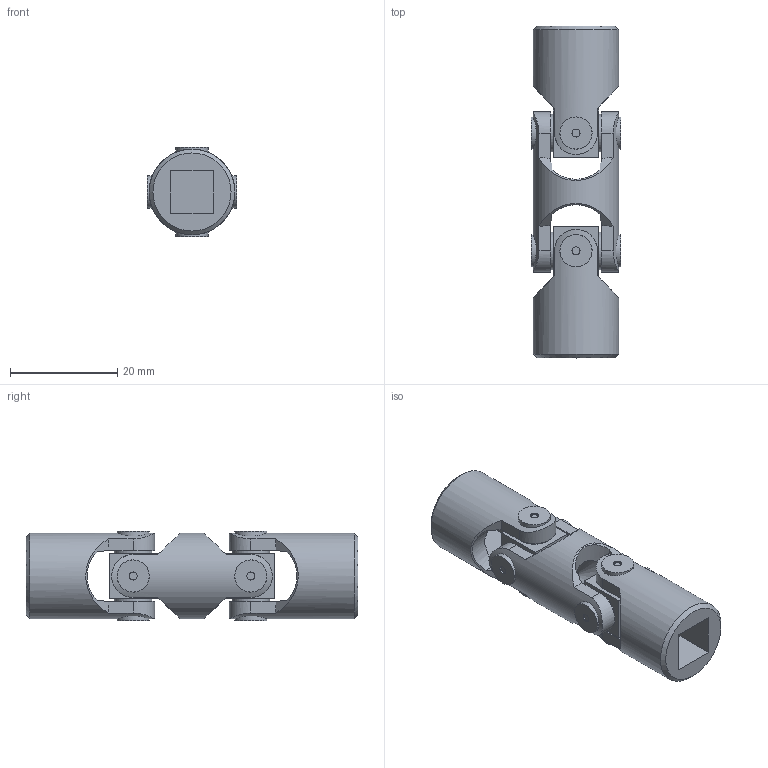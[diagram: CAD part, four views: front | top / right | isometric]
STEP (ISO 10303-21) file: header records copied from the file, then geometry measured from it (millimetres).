
FILE_DESCRIPTION(/* description */ (''),/* implementation_level */ '2;1');
FILE_NAME(/* name */ '\\SRV2016\Societa\Stefano\Disegni 3D\00Catalogo 3D\02Doppi GD-GBD\SG0D082Q.stp',/* time_stamp */ '2021-11-22T16:54:35+01:00',/* author */ ('acquisti'),/* organization */ (''),/* preprocessor_version */ 'ST-DEVELOPER v15.6',/* originating_system */ 'Autodesk Inventor 2015',/* authorisation */ '');
FILE_SCHEMA (('AUTOMOTIVE_DESIGN { 1 0 10303 214 3 1 1 }'));
Length unit declared in the file: millimetre
Products named in the file (4): 01G MOD; 01-02G SFE; 02G MOQ; Ø16_02GD-00_SG0D0800
Assembly tree (5 placements, depth 2):
  Ø16_02GD-00_SG0D0800
    01G MOD
    01-02G SFE  x2
    02G MOQ  x2
Bounding box: 16.7 x 62 x 16.7 mm (x, y, z)
Volume: 8053.6 mm3; surface area: 6167.8 mm2
Topology: 5 solids, 5 shells, 155 faces, 397 edges, 272 vertices
Faces by surface type: plane 78, cylinder 45, cone 28, torus 4
Full cylindrical faces by diameter (mm): 1.5 x8, 6 x8, 7 x8, 8.5 x2, 16 x3
Entity records: 3542 total; most frequent: CARTESIAN_POINT 1229, ORIENTED_EDGE 452, DIRECTION 438, EDGE_CURVE 226, AXIS2_PLACEMENT_3D 187, VERTEX_POINT 168, EDGE_LOOP 146, FACE_OUTER_BOUND 103
